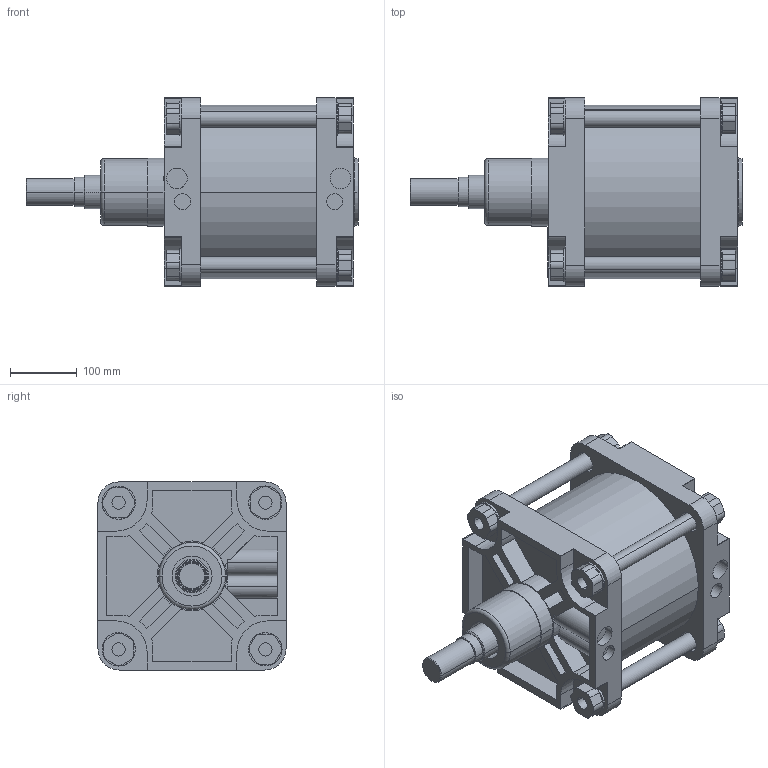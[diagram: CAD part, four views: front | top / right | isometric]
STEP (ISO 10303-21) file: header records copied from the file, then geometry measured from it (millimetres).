
FILE_DESCRIPTION(('CATIA V5 STEP Exchange'),'2;1');
FILE_NAME('D:\stp file for catalog\PNC\250\PNC 250-50-80-00.stp','2015-10-25T13:09:39+00:00',('none'),('none'),'Version 5-6 Release 2012','CATIA V5 STEP AP203','none');
FILE_SCHEMA(('CONFIG_CONTROL_DESIGN'));
Length unit declared in the file: millimetre
Products named in the file (1): PNC 250-50-80-00
Assembly tree (2 placements, depth 2):
  PNC 250-50-80-00
    #58
    #15305
Bounding box: 498 x 282 x 282 mm (x, y, z)
Volume: 9949194.3 mm3; surface area: 1171789 mm2
Topology: 2 solids, 2 shells, 556 faces, 1428 edges, 944 vertices
Faces by surface type: plane 316, cylinder 196, cone 42, torus 2
Entity records: 15751 total; most frequent: CARTESIAN_POINT 3340, ORIENTED_EDGE 2856, DIRECTION 1929, EDGE_CURVE 1428, VERTEX_POINT 944, VECTOR 904, LINE 904, AXIS2_PLACEMENT_3D 718
